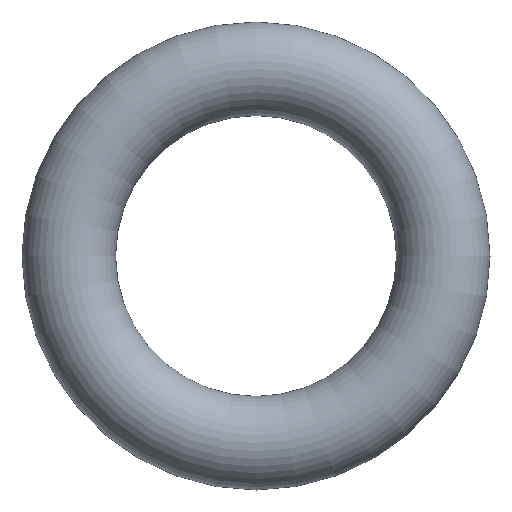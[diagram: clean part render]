
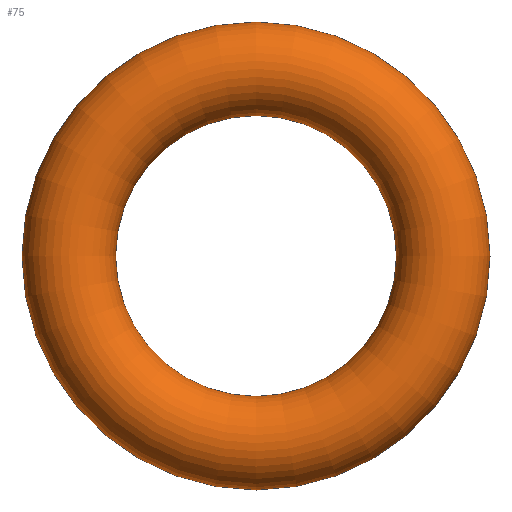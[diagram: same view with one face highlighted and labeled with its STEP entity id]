
A CAD part, front view. The second image highlights one B-rep face of the part: STEP entity #75.
In plain terms, the highlighted toroidal (fillet/blend) face has major radius 2 mm and minor radius 0.5 mm.
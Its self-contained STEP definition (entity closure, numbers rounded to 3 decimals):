
#75 = ADVANCED_FACE( '', ( #77 ), #78, .T. );
#77 = FACE_BOUND( '', #79, .T. );
#78 = TOROIDAL_SURFACE( '', #80, 2., 0.5 );
#79 = VERTEX_LOOP( '', #81 );
#80 = AXIS2_PLACEMENT_3D( '', #82, #83, #84 );
#81 = VERTEX_POINT( '', #85 );
#82 = CARTESIAN_POINT( '', ( 0., 0., 0. ) );
#83 = DIRECTION( '', ( 0., -1., 0. ) );
#84 = DIRECTION( '', ( 0., 0., -1. ) );
#85 = CARTESIAN_POINT( '', ( 0., 0., -2.5 ) );
